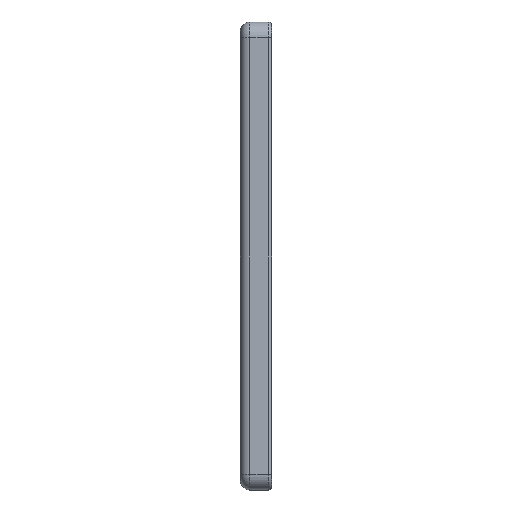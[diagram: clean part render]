
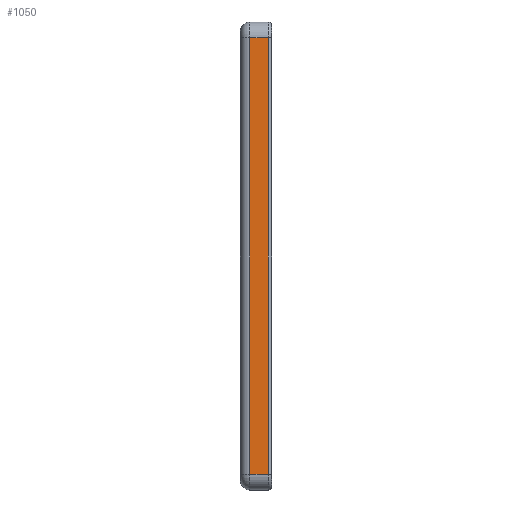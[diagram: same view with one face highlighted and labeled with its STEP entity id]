
A CAD part, left-side view. The second image highlights one B-rep face of the part: STEP entity #1050.
In plain terms, the highlighted planar face has unit normal (-1, 0, 0).
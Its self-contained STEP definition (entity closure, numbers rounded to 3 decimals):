
#32 = LINE ( 'NONE', #348, #35 ) ;
#35 = VECTOR ( 'NONE', #349, 1000. ) ;
#283 = DIRECTION ( 'NONE',  ( 0., 0., 1. ) ) ;
#287 = CARTESIAN_POINT ( 'NONE',  ( -100., 10., 70. ) ) ;
#296 = CARTESIAN_POINT ( 'NONE',  ( -100., 1., -75. ) ) ;
#297 = DIRECTION ( 'NONE',  ( 0., 1., 0. ) ) ;
#298 = CARTESIAN_POINT ( 'NONE',  ( -100., 7., -70. ) ) ;
#299 = DIRECTION ( 'NONE',  ( 0., 0., -1. ) ) ;
#348 = CARTESIAN_POINT ( 'NONE',  ( -100., 10., -70. ) ) ;
#349 = DIRECTION ( 'NONE',  ( 0., -1., 0. ) ) ;
#567 = CARTESIAN_POINT ( 'NONE',  ( -100., 7., 70. ) ) ;
#568 = CARTESIAN_POINT ( 'NONE',  ( -100., 1., 70. ) ) ;
#573 = CARTESIAN_POINT ( 'NONE',  ( -100., 1., -70. ) ) ;
#574 = CARTESIAN_POINT ( 'NONE',  ( -100., 7., -70. ) ) ;
#944 = CARTESIAN_POINT ( 'NONE',  ( -100., 10., -75. ) ) ;
#945 = PLANE ( 'NONE',  #1879 ) ;
#948 = DIRECTION ( 'NONE',  ( 1., 0., 0. ) ) ;
#949 = DIRECTION ( 'NONE',  ( 0., 0., -1. ) ) ;
#1050 = ADVANCED_FACE ( 'NONE', ( #2363 ), #945, .F. ) ;
#1167 = EDGE_LOOP ( 'NONE', ( #1892, #1755, #1760, #1759 ) ) ;
#1316 = EDGE_CURVE ( 'NONE', #1994, #1989, #2957, .T. ) ;
#1317 = EDGE_CURVE ( 'NONE', #1989, #1988, #2986, .T. ) ;
#1318 = EDGE_CURVE ( 'NONE', #1988, #1995, #3003, .T. ) ;
#1630 = EDGE_CURVE ( 'NONE', #1995, #1994, #32, .T. ) ;
#1755 = ORIENTED_EDGE ( 'NONE', *, *, #1316, .T. ) ;
#1759 = ORIENTED_EDGE ( 'NONE', *, *, #1318, .T. ) ;
#1760 = ORIENTED_EDGE ( 'NONE', *, *, #1317, .T. ) ;
#1879 = AXIS2_PLACEMENT_3D ( 'NONE', #944, #948, #949 ) ;
#1892 = ORIENTED_EDGE ( 'NONE', *, *, #1630, .T. ) ;
#1988 = VERTEX_POINT ( 'NONE', #567 ) ;
#1989 = VERTEX_POINT ( 'NONE', #568 ) ;
#1994 = VERTEX_POINT ( 'NONE', #573 ) ;
#1995 = VERTEX_POINT ( 'NONE', #574 ) ;
#2363 = FACE_OUTER_BOUND ( 'NONE', #1167, .T. ) ;
#2957 = LINE ( 'NONE', #296, #3000 ) ;
#2986 = LINE ( 'NONE', #287, #3004 ) ;
#3000 = VECTOR ( 'NONE', #283, 1000. ) ;
#3003 = LINE ( 'NONE', #298, #3006 ) ;
#3004 = VECTOR ( 'NONE', #297, 1000. ) ;
#3006 = VECTOR ( 'NONE', #299, 1000. ) ;
